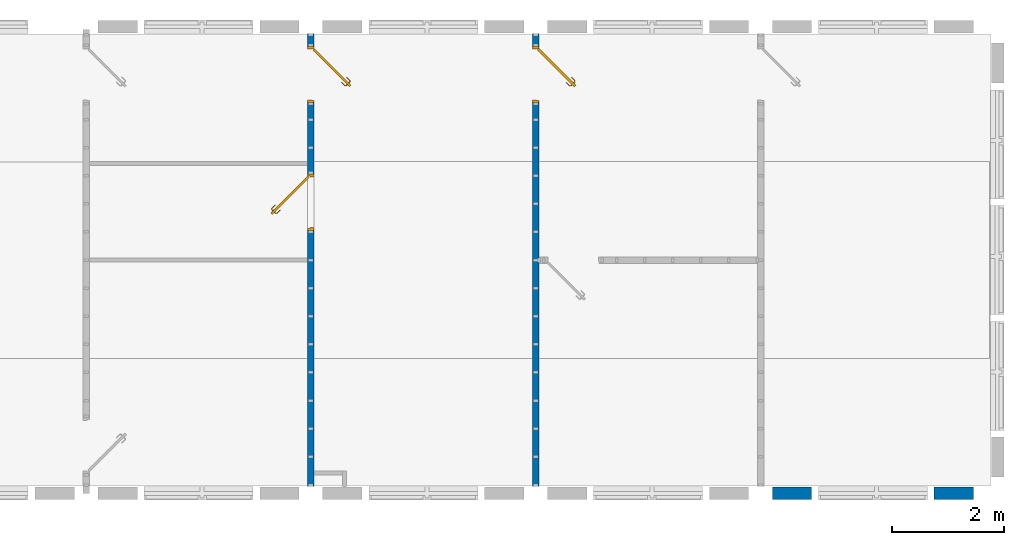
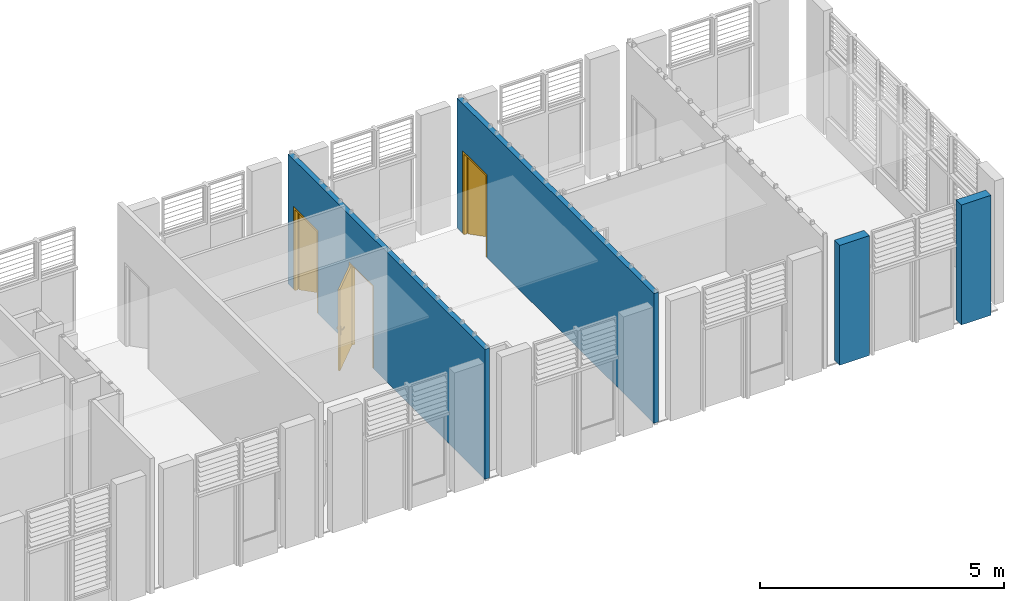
# One storey, part 12 of 20: 4 walls, 3 doors, 3 openings.
"""IFC2X3 building model written with IfcOpenShell, lengths in metres."""

import ifcopenshell
import ifcopenshell.guid

model = None  # the IFC model being written
_history = None  # IfcOwnerHistory: only IFC2X3 demands one
_inside = {}  # id of a spatial element -> (the spatial element, [elements in it])
_under = {}  # id of a project, library or spatial element -> (it, [spatial elements below it])
_declared = {}  # id of a project -> (the project, [libraries it declares])
_typed = {}  # id of a type object -> (the type object, [elements of that type])
_made_of = {}  # id of a material, layer set ... -> (it, [elements and type objects made of it])


def new_model(schema):
    """Start an empty IFC model of exactly this schema.

    Asked for "IFC4X3", IfcOpenShell would pick the latest addendum, in which some entities
    have other attributes; the version numbers below select the first issue.
    IFC2X3 requires an IfcOwnerHistory on every rooted entity: one is made here for all.
    """
    global model, _history
    if schema == "IFC4X3":
        model = ifcopenshell.file(schema_version=(4, 3, 0, 0))
    else:
        model = ifcopenshell.file(schema=schema)
    _inside.clear()
    _under.clear()
    _declared.clear()
    _typed.clear()
    _made_of.clear()
    _history = None
    if model.schema == "IFC2X3":
        org = make("IfcOrganization", Name="unknown")
        user = make(
            "IfcPersonAndOrganization",
            ThePerson=make("IfcPerson", FamilyName="unknown"),
            TheOrganization=org,
        )
        app = make(
            "IfcApplication",
            ApplicationDeveloper=org,
            Version="unknown",
            ApplicationFullName="unknown",
            ApplicationIdentifier="unknown",
        )
        _history = make(
            "IfcOwnerHistory",
            OwningUser=user,
            OwningApplication=app,
            ChangeAction="ADDED",
            CreationDate=0,
        )
    return model


def make(cls, **values):
    """One entity of the class cls with the attributes given. An attribute that is None is left unset."""
    return model.create_entity(
        cls, **{name: value for name, value in values.items() if value is not None}
    )


def entity(cls, *values):
    """Any entity or typed value of the class cls, its attributes in the order of the schema. None: left unset."""
    e = model.create_entity(cls)
    for i, value in enumerate(values):
        if value is not None:
            e[i] = value
    return e


def rooted(cls, **values):
    """An entity with a GlobalId (a new one), such as an element, a storey or a relation."""
    return make(cls, GlobalId=ifcopenshell.guid.new(), OwnerHistory=_history, **values)


def si_unit(unit_type, name, prefix=None):
    """IfcSIUnit, for example si_unit("LENGTHUNIT", "METRE", prefix="MILLI")."""
    return make("IfcSIUnit", UnitType=unit_type, Prefix=prefix, Name=name)


def converted_unit(unit_type, name, factor, base, dimensions=None, offset=None):
    """IfcConversionBasedUnit, such as the inch: factor (a typed value) times the base unit."""
    return make(
        "IfcConversionBasedUnit"
        if offset is None
        else "IfcConversionBasedUnitWithOffset",
        ConversionOffset=offset,
        Dimensions=None
        if dimensions is None
        else entity("IfcDimensionalExponents", *dimensions),
        UnitType=unit_type,
        Name=name,
        ConversionFactor=make(
            "IfcMeasureWithUnit", ValueComponent=factor, UnitComponent=base
        ),
    )


def derived_unit(unit_type, elements):
    """IfcDerivedUnit: a product of units, each with its exponent."""
    return make(
        "IfcDerivedUnit",
        Elements=[
            make("IfcDerivedUnitElement", Unit=unit, Exponent=power)
            for unit, power in elements
        ],
        UnitType=unit_type,
    )


def assignment(units):
    """IfcUnitAssignment: the units of a project."""
    return None if units is None else make("IfcUnitAssignment", Units=units)


def point(xyz):
    """IfcCartesianPoint."""
    return None if xyz is None else make("IfcCartesianPoint", Coordinates=xyz)


def direction(xyz):
    """IfcDirection."""
    return None if xyz is None else make("IfcDirection", DirectionRatios=xyz)


def frame(location, z_axis=None, x_axis=None):
    """IfcAxis2Placement3D, a coordinate frame: its origin and axes. An axis left out is left unset."""
    return make(
        "IfcAxis2Placement3D",
        Location=point(location),
        Axis=direction(z_axis),
        RefDirection=direction(x_axis),
    )


def frame_2d(location, x_axis=None):
    """IfcAxis2Placement2D, a coordinate frame in the plane: its origin and x axis."""
    return make(
        "IfcAxis2Placement2D", Location=point(location), RefDirection=direction(x_axis)
    )


def origin():
    """The frame at (0, 0, 0) with its axes left unset."""
    return frame((0.0, 0.0, 0.0))


def place(relative_to, where):
    """IfcLocalPlacement: puts the frame where relative to a parent placement (None: the world)."""
    return make(
        "IfcLocalPlacement", PlacementRelTo=relative_to, RelativePlacement=where
    )


def context(
    kind, dimensions, precision=None, world=None, true_north=None, identifier=None
):
    """IfcGeometricRepresentationContext, for example the 3D "Model" context."""
    return make(
        "IfcGeometricRepresentationContext",
        ContextIdentifier=identifier,
        ContextType=kind,
        CoordinateSpaceDimension=dimensions,
        Precision=precision,
        WorldCoordinateSystem=world,
        TrueNorth=true_north,
    )


def subcontext(parent, identifier, kind, view, scale=None):
    """IfcGeometricRepresentationSubContext, for example "Body" below "Model"."""
    return make(
        "IfcGeometricRepresentationSubContext",
        ContextIdentifier=identifier,
        ContextType=kind,
        ParentContext=parent,
        TargetScale=scale,
        TargetView=view,
    )


def project(units=None, contexts=None):
    """IfcProject with its units and contexts."""
    return rooted(
        "IfcProject",
        Name="project",
        RepresentationContexts=contexts,
        UnitsInContext=assignment(units),
    )


def spatial(cls, under=None, at=None, **own):
    """A site, building, storey or space (cls), placed at a placement, below another one or the project."""
    s = rooted(cls, ObjectPlacement=at, **own)
    if under is not None:
        _under.setdefault(under.id(), (under, []))[1].append(s)
    return s


def profile(cls, at=None, kind="AREA", **sizes):
    """A parametric profile (cls). Its sizes go by their IFC names, for example OverallWidth=200.0."""
    return make(cls, ProfileType=kind, Position=at, **sizes)


def rectangle(**sizes):
    """IfcRectangleProfileDef."""
    return profile("IfcRectangleProfileDef", **sizes)


def extrude(swept, where, along, depth):
    """IfcExtrudedAreaSolid: the profile swept, set in the frame where, extruded along a direction by depth."""
    return make(
        "IfcExtrudedAreaSolid",
        SweptArea=swept,
        Position=where,
        ExtrudedDirection=direction(along),
        Depth=depth,
    )


def faces_of(points, faces, orient=None, outer=None):
    """IfcFace entities. A face is a list of loops; a loop is a list of indices into points, from 0.

    orient and outer hold one flag for each loop. By default every Orientation is true, the
    first loop of a face is its IfcFaceOuterBound and the others are IfcFaceBound.
    """
    made = []
    for i, loops in enumerate(faces):
        bounds = []
        for j, loop in enumerate(loops):
            is_outer = j == 0 if outer is None else outer[i][j]
            bounds.append(
                make(
                    "IfcFaceOuterBound" if is_outer else "IfcFaceBound",
                    Bound=make("IfcPolyLoop", Polygon=[points[k] for k in loop]),
                    Orientation=True if orient is None else orient[i][j],
                )
            )
        made.append(make("IfcFace", Bounds=bounds))
    return made


def faceted_brep(points, faces, orient=None, outer=None, voids=None):
    """IfcFacetedBrep: a solid bounded by flat faces; with voids (closed shells), ...WithVoids."""
    shared = [point(p) for p in points]
    hull = make("IfcClosedShell", CfsFaces=faces_of(shared, faces, orient, outer))
    if voids is None:
        return make("IfcFacetedBrep", Outer=hull)
    return make(
        "IfcFacetedBrepWithVoids",
        Outer=hull,
        Voids=[
            make(cls, CfsFaces=faces_of(shared, fs, o, b)) for cls, fs, o, b in voids
        ],
    )


def shape(context_of_items, identifier, shape_type, items):
    """IfcShapeRepresentation: the items that make up one representation, for example the "Body"."""
    return make(
        "IfcShapeRepresentation",
        ContextOfItems=context_of_items,
        RepresentationIdentifier=identifier,
        RepresentationType=shape_type,
        Items=items,
    )


def source(mapping_origin, context_of_items, identifier, shape_type, items):
    """IfcRepresentationMap: a shape defined once, which mapped items show again and again."""
    return make(
        "IfcRepresentationMap",
        MappingOrigin=mapping_origin,
        MappedRepresentation=shape(context_of_items, identifier, shape_type, items),
    )


def transform(
    local_origin,
    x_axis=None,
    y_axis=None,
    z_axis=None,
    scale=None,
    scale2=None,
    scale3=None,
    uniform=True,
):
    """IfcCartesianTransformationOperator3D, or its non-uniform kind. x_axis, y_axis, z_axis: its Axis1, 2, 3."""
    if uniform:
        return make(
            "IfcCartesianTransformationOperator3D",
            Axis1=direction(x_axis),
            Axis2=direction(y_axis),
            LocalOrigin=point(local_origin),
            Scale=scale,
            Axis3=direction(z_axis),
        )
    return make(
        "IfcCartesianTransformationOperator3DnonUniform",
        Axis1=direction(x_axis),
        Axis2=direction(y_axis),
        LocalOrigin=point(local_origin),
        Scale=scale,
        Axis3=direction(z_axis),
        Scale2=scale2,
        Scale3=scale3,
    )


def mapped(mapping_source, mapping_target):
    """IfcMappedItem: shows the shape of a source again, moved by a transform."""
    return make(
        "IfcMappedItem", MappingSource=mapping_source, MappingTarget=mapping_target
    )


def material(Name=None, Category=None):
    """IfcMaterial."""
    return make("IfcMaterial", Name=Name, Category=Category)


def layer(
    of_material, thickness, ventilated=None, Name=None, Category=None, Priority=None
):
    """IfcMaterialLayer: one layer of a wall or slab, of a material (None: an air gap)."""
    return make(
        "IfcMaterialLayer",
        Material=of_material,
        LayerThickness=thickness,
        IsVentilated=ventilated,
        Name=Name,
        Category=Category,
        Priority=Priority,
    )


def layer_set(layers, Name=None):
    """IfcMaterialLayerSet."""
    return make("IfcMaterialLayerSet", MaterialLayers=layers, LayerSetName=Name)


def layer_usage(for_layer_set, set_direction, sense, offset, extent=None):
    """IfcMaterialLayerSetUsage: how a layer set lies in its element."""
    return make(
        "IfcMaterialLayerSetUsage",
        ForLayerSet=for_layer_set,
        LayerSetDirection=set_direction,
        DirectionSense=sense,
        OffsetFromReferenceLine=offset,
        ReferenceExtent=extent,
    )


def made_of(thing, what):
    """Note that an element or type object is made of a material, layer set ...; save() writes the relation."""
    if what is not None:
        _made_of.setdefault(what.id(), (what, []))[1].append(thing)
    return thing


def type_object(cls, material=None, **own):
    """A type object (cls), such as IfcWallType, which elements share."""
    return made_of(rooted(cls, **own), material)


def type_shapes(of_type, sources):
    """Give a type object the sources (RepresentationMaps) that its elements show as mapped items."""
    of_type.RepresentationMaps = sources


def element(
    cls,
    number,
    at=None,
    inside=None,
    cuts=None,
    type_object=None,
    material=None,
    context=None,
    identifier="Body",
    shape_type=None,
    held_by="IfcProductDefinitionShape",
    body=None,
    shapes=None,
    **own,
):
    """One element of the class cls, such as IfcWall. Its Tag is "e" and its number.

    at: its placement. inside: the storey or other place that contains it. cuts: it is an
    opening in that element (IfcRelVoidsElement). A single representation is given by context,
    identifier, shape_type and body (its items); several are given by shapes. held_by: the class
    of the entity that holds the representations. save() writes the other relations.
    """
    e = rooted(cls, Tag="e%d" % number, ObjectPlacement=at, **own)
    if body is not None:
        shapes = [shape(context, identifier, shape_type, body)]
    if shapes is not None:
        e.Representation = make(held_by, Representations=shapes)
    if inside is not None:
        _inside.setdefault(inside.id(), (inside, []))[1].append(e)
    if cuts is not None:
        rooted(
            "IfcRelVoidsElement", RelatingBuildingElement=cuts, RelatedOpeningElement=e
        )
    if type_object is not None:
        _typed.setdefault(type_object.id(), (type_object, []))[1].append(e)
    return made_of(e, material)


def fill(opening, filler):
    """IfcRelFillsElement: the door or window that sits in an opening."""
    return rooted(
        "IfcRelFillsElement",
        RelatingOpeningElement=opening,
        RelatedBuildingElement=filler,
    )


def aggregate(whole, parts):
    """IfcRelAggregates: a whole, such as a stair, and the parts it consists of."""
    return rooted("IfcRelAggregates", RelatingObject=whole, RelatedObjects=parts)


def save(model, path):
    """Write the relations noted so far, then the file.

    IfcRelAggregates (storeys below a building ...), IfcRelContainedInSpatialStructure (elements
    in a storey), IfcRelDefinesByType, IfcRelAssociatesMaterial and IfcRelDeclares: one each for
    every whole, place, type object, material and project.
    """
    for whole, parts in _under.values():
        aggregate(whole, parts)
    for where, things in _inside.values():
        rooted(
            "IfcRelContainedInSpatialStructure",
            RelatedElements=things,
            RelatingStructure=where,
        )
    for kind, things in _typed.values():
        rooted("IfcRelDefinesByType", RelatedObjects=things, RelatingType=kind)
    for what, things in _made_of.values():
        rooted("IfcRelAssociatesMaterial", RelatedObjects=things, RelatingMaterial=what)
    for by, libraries in _declared.values():
        rooted("IfcRelDeclares", RelatingContext=by, RelatedDefinitions=libraries)
    model.write(path)


model = new_model("IFC2X3")

# Units and contexts
model_context = context("Model", 3, precision=1e-05, world=origin(), true_north=direction((6.12303176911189e-17, 1.0)))
body_context = subcontext(model_context, "Body", "Model", "MODEL_VIEW")
ifc_project = project(units=[si_unit("LENGTHUNIT", "METRE"), si_unit("AREAUNIT", "SQUARE_METRE"), si_unit("VOLUMEUNIT", "CUBIC_METRE"), converted_unit("PLANEANGLEUNIT", "DEGREE", entity("IfcRatioMeasure", 0.0174532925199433), si_unit("PLANEANGLEUNIT", "RADIAN"), dimensions=[0, 0, 0, 0, 0, 0, 0]), si_unit("MASSUNIT", "GRAM", prefix="KILO"), derived_unit("MASSDENSITYUNIT", [(si_unit("MASSUNIT", "GRAM", prefix="KILO"), 1), (si_unit("LENGTHUNIT", "METRE"), -3)]), si_unit("TIMEUNIT", "SECOND"), si_unit("FREQUENCYUNIT", "HERTZ"), si_unit("THERMODYNAMICTEMPERATUREUNIT", "DEGREE_CELSIUS"), derived_unit("THERMALTRANSMITTANCEUNIT", [(si_unit("MASSUNIT", "GRAM", prefix="KILO"), 1), (si_unit("THERMODYNAMICTEMPERATUREUNIT", "KELVIN"), -1), (si_unit("TIMEUNIT", "SECOND"), -3)]), derived_unit("VOLUMETRICFLOWRATEUNIT", [(si_unit("LENGTHUNIT", "METRE"), 3), (si_unit("TIMEUNIT", "SECOND"), -1)]), si_unit("ELECTRICCURRENTUNIT", "AMPERE"), si_unit("ELECTRICVOLTAGEUNIT", "VOLT"), si_unit("POWERUNIT", "WATT"), si_unit("FORCEUNIT", "NEWTON", prefix="KILO"), si_unit("ILLUMINANCEUNIT", "LUX"), si_unit("LUMINOUSFLUXUNIT", "LUMEN"), si_unit("LUMINOUSINTENSITYUNIT", "CANDELA"), derived_unit("USERDEFINED", [(si_unit("MASSUNIT", "GRAM", prefix="KILO"), -1), (si_unit("LENGTHUNIT", "METRE"), -2), (si_unit("TIMEUNIT", "SECOND"), 3), (si_unit("LUMINOUSFLUXUNIT", "LUMEN"), 1)]), derived_unit("LINEARVELOCITYUNIT", [(si_unit("LENGTHUNIT", "METRE"), 1), (si_unit("TIMEUNIT", "SECOND"), -1)]), si_unit("PRESSUREUNIT", "PASCAL"), derived_unit("USERDEFINED", [(si_unit("LENGTHUNIT", "METRE"), -2), (si_unit("MASSUNIT", "GRAM", prefix="KILO"), 1), (si_unit("TIMEUNIT", "SECOND"), -2)])], contexts=[model_context])

# Site, building, storey
site_placement = place(None, origin())
site = spatial("IfcSite", under=ifc_project, at=site_placement, Name="Surface", CompositionType="ELEMENT")
building_placement = place(site_placement, origin())
building = spatial("IfcBuilding", under=site, at=building_placement, Name="ExPREF", CompositionType="ELEMENT")
storey_placement = place(building_placement, frame((0.0, 0.0, 4.27)))
storey = spatial("IfcBuildingStorey", under=building, at=storey_placement, Name="R+1", CompositionType="ELEMENT", Elevation=4.27)

# Wall, openings, doors
ifc_material_1 = material(Name="AA-mur cloison finition")
ifc_layer_1 = layer(ifc_material_1, 0.018)
ifc_material_2 = material(Name="AA-isolant plancher")
ifc_layer_2 = layer(ifc_material_2, 0.08)
ifc_layer_3 = layer(ifc_material_1, 0.018)
ifc_layer_set_1 = layer_set([ifc_layer_1, ifc_layer_2, ifc_layer_3], Name="Mur de base:A-cloison CP 11.6 cm")
ifc_layer_usage_1 = layer_usage(ifc_layer_set_1, "AXIS2", "NEGATIVE", 0.058)
wall_type_1 = type_object("IfcWallType", Name="Mur de base:A-cloison CP 11.6 cm", PredefinedType="STANDARD", material=ifc_layer_set_1)
wall_1_placement = place(storey_placement, frame((57.4897436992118, -185.17648794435, 0.0), z_axis=(0.0, 0.0, 1.0), x_axis=(0.0, -1.0, 0.0)))
wall_1 = element("IfcWallStandardCase", 1, at=wall_1_placement, inside=storey, type_object=wall_type_1, material=ifc_layer_usage_1, Name="Mur de base:A-cloison CP 11.6 cm", ObjectType="Mur de base:A-cloison CP 11.6 cm", context=body_context, shape_type="SweptSolid", body=[
    extrude(rectangle(XDim=8.06316335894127, YDim=0.116000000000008, at=frame_2d((4.03158167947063, 1.98105420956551e-15), x_axis=(-1.0, 0.0))), origin(), (0.0, 0.0, 1.0), 3.24999999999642),
])
opening_1_placement = place(wall_1_placement, frame((0.230000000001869, -0.0580000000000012, 0.0)))
opening_1 = element("IfcOpeningElement", 2, at=opening_1_placement, cuts=wall_1, Name="Porte intérieur bois:PP (0.93m x 2.04m):1", ObjectType="Opening", context=body_context, shape_type="SweptSolid", body=[
    extrude(rectangle(XDim=2.075, YDim=1.0, at=frame_2d((1.0375, 0.5), x_axis=(1.0, 0.0))), frame((0.0, 0.0, 0.0), z_axis=(0.0, 1.0, 0.0), x_axis=(0.0, 0.0, 1.0)), (0.0, 0.0, 1.0), 0.116),
])
opening_2_placement = place(wall_1_placement, frame((3.50158183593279, 0.0579999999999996, 0.0)))
opening_2 = element("IfcOpeningElement", 3, at=opening_2_placement, cuts=wall_1, Name="Porte intérieur bois:PP (0.93m x 2.04m):1", ObjectType="Opening", context=body_context, shape_type="SweptSolid", body=[
    extrude(rectangle(XDim=2.075, YDim=1.0, at=frame_2d((1.0375, 0.5), x_axis=(1.0, 0.0))), frame((0.0, 0.0, 0.0), z_axis=(0.0, -1.0, 0.0), x_axis=(0.0, 0.0, 1.0)), (0.0, 0.0, 1.0), 0.116),
])
ifc_material_3 = material(Name="AA-Blanc satiné")
door_style_1 = type_object("IfcDoorStyle", Name="PP (0.93m x 2.04m)", ConstructionType="NOTDEFINED", OperationType="SINGLE_SWING_LEFT", ParameterTakesPrecedence=False, Sizeable=False, material=ifc_material_3)
shared_shape_1 = source(origin(), body_context, "Body", "Brep", [
    faceted_brep([(0.316565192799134, -0.584795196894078, 1.00778044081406), (0.313754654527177, -0.587605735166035, 1.007), (0.31375465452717, -0.587605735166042, 0.992999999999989), (0.316565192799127, -0.584795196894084, 0.99221955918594), (0.319429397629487, -0.581930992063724, 0.992219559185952), (0.32223993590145, -0.579120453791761, 0.993000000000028), (0.322239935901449, -0.579120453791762, 1.007), (0.319429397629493, -0.581930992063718, 1.00778044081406), (0.306340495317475, -0.563221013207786, 0.993000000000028), (0.306340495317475, -0.563221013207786, 1.007), (0.302365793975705, -0.56486738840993, 1.00778044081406), (0.302365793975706, -0.545331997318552, 1.00778044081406), (0.298315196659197, -0.543654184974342, 1.00778044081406), (0.298315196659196, -0.56654520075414, 1.00778044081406), (0.294340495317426, -0.568191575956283, 1.007), (0.294340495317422, -0.568191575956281, 0.992999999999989), (0.298315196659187, -0.566545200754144, 0.99221955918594), (0.298315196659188, -0.543654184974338, 0.99221955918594), (0.302365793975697, -0.545331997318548, 0.992219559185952), (0.302365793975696, -0.564867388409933, 0.992219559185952), (0.306340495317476, -0.546978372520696, 0.993000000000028), (0.306340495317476, -0.546978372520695, 1.007), (0.294340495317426, -0.542007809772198, 1.007), (0.294340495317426, -0.542007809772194, 0.992999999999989), (0.36471958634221, -0.488599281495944, 0.993000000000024), (0.361909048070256, -0.485788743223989, 0.992219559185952), (0.359044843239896, -0.48292453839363, 0.99221955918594), (0.356234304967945, -0.480114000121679, 0.992999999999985), (0.356234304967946, -0.480114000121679, 1.007), (0.359044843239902, -0.482924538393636, 1.00778044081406), (0.361909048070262, -0.485788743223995, 1.00778044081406), (0.364719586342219, -0.488599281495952, 1.007), (0.335530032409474, -0.517788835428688, 0.993000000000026), (0.335530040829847, -0.517788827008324, 1.007), (0.330705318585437, -0.51412826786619, 1.0078786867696), (0.322575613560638, -0.513772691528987, 1.007), (0.322575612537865, -0.513772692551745, 0.992999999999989), (0.330705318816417, -0.514128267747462, 0.992121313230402)], [[[0, 1, 2, 3, 4, 5, 6, 7]], [[6, 5, 8, 9]], [[9, 10, 7, 6]], [[10, 11, 12, 13, 0, 7]], [[13, 14, 1, 0]], [[2, 1, 14, 15]], [[15, 16, 3, 2]], [[16, 17, 18, 19, 4, 3]], [[19, 8, 5, 4]], [[9, 8, 20, 21]], [[21, 11, 10, 9]], [[12, 22, 14, 13]], [[15, 14, 22, 23]], [[23, 17, 16, 15]], [[18, 20, 8, 19]], [[24, 25, 26, 27, 28, 29, 30, 31]], [[21, 20, 32, 24, 31, 33]], [[33, 30, 34]], [[35, 34, 29]], [[21, 33, 11]], [[33, 31, 30]], [[28, 35, 29]], [[22, 12, 35]], [[35, 12, 34]], [[12, 11, 34]], [[11, 33, 34]], [[29, 34, 30]], [[22, 35, 28, 27, 36, 23]], [[36, 26, 37]], [[27, 26, 36]], [[17, 23, 36]], [[37, 32, 18]], [[20, 18, 32]], [[32, 25, 24]], [[26, 25, 37]], [[25, 32, 37]], [[17, 36, 37]], [[17, 37, 18]]]),
    faceted_brep([(0.351920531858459, -0.620150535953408, 1.00778044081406), (0.354784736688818, -0.617286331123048, 1.00778044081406), (0.357595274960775, -0.614475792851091, 1.00699999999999), (0.357595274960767, -0.614475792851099, 0.993000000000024), (0.354784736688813, -0.617286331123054, 0.992219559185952), (0.351920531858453, -0.620150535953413, 0.99221955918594), (0.349109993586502, -0.622961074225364, 0.992999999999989), (0.349109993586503, -0.622961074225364, 1.007), (0.368662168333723, -0.642513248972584, 1.007), (0.370308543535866, -0.638538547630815, 1.00778044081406), (0.3930050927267, -0.638538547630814, 1.00778044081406), (0.391327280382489, -0.634487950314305, 1.00778044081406), (0.371986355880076, -0.634487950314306, 1.00778044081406), (0.373632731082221, -0.630513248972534, 1.007), (0.373632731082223, -0.630513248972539, 0.993000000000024), (0.371986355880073, -0.634487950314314, 0.992219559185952), (0.391327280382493, -0.634487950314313, 0.992219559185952), (0.393005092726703, -0.638538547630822, 0.99221955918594), (0.370308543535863, -0.638538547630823, 0.99221955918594), (0.368662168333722, -0.642513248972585, 0.992999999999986), (0.394651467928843, -0.642513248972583, 1.007), (0.389680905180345, -0.630513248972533, 1.007), (0.38968090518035, -0.630513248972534, 0.993000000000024), (0.394651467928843, -0.642513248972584, 0.992999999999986), (0.456623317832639, -0.580541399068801, 0.992999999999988), (0.453812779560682, -0.577730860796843, 0.99221955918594), (0.450948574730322, -0.574866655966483, 0.992219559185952), (0.448138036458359, -0.57205611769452, 0.993000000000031), (0.44813803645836, -0.572056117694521, 1.007), (0.450948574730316, -0.574866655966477, 1.00778044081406), (0.453812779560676, -0.577730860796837, 1.00778044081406), (0.456623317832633, -0.580541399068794, 1.00699999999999), (0.422886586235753, -0.614278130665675, 1.007), (0.422570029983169, -0.606109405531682, 1.0078786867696), (0.418909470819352, -0.601284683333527, 1.007), (0.418909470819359, -0.601284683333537, 0.993000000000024), (0.422570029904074, -0.606109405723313, 0.992121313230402), (0.422886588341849, -0.614278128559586, 0.992999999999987)], [[[0, 1, 2, 3, 4, 5, 6, 7]], [[8, 9, 0, 7]], [[9, 10, 11, 12, 1, 0]], [[12, 13, 2, 1]], [[3, 2, 13, 14]], [[14, 15, 4, 3]], [[15, 16, 17, 18, 5, 4]], [[18, 19, 6, 5]], [[7, 6, 19, 8]], [[20, 10, 9, 8]], [[11, 21, 13, 12]], [[14, 13, 21, 22]], [[22, 16, 15, 14]], [[17, 23, 19, 18]], [[8, 19, 23, 20]], [[24, 25, 26, 27, 28, 29, 30, 31]], [[32, 30, 33]], [[31, 30, 32]], [[10, 20, 32]], [[33, 34, 11]], [[21, 11, 34]], [[34, 29, 28]], [[30, 29, 33]], [[29, 34, 33]], [[10, 32, 33]], [[10, 33, 11]], [[22, 21, 34, 28, 27, 35]], [[35, 26, 36]], [[37, 36, 25]], [[22, 35, 16]], [[35, 27, 26]], [[24, 37, 25]], [[23, 17, 37]], [[37, 17, 36]], [[17, 16, 36]], [[16, 35, 36]], [[25, 36, 26]], [[20, 23, 37, 24, 31, 32]]]),
    faceted_brep([(0.328853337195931, -0.579578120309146, 0.866003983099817), (0.335674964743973, -0.572756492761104, 0.870000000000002), (0.335674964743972, -0.572756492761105, 1.08), (0.32885333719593, -0.579578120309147, 1.08399601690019), (0.321532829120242, -0.586898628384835, 1.08535898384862), (0.314212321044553, -0.594219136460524, 1.08399601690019), (0.307390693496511, -0.601040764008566, 1.08), (0.307390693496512, -0.601040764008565, 0.870000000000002), (0.314212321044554, -0.594219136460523, 0.866003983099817), (0.321532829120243, -0.586898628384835, 0.86464101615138), (0.325317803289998, -0.576042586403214, 1.08399601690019), (0.33213943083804, -0.569220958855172, 1.08), (0.332139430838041, -0.569220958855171, 0.870000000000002), (0.325317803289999, -0.576042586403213, 0.866003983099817), (0.31799729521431, -0.583363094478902, 0.86464101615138), (0.310676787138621, -0.59068360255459, 0.866003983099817), (0.303855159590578, -0.597505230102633, 0.870000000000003), (0.303855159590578, -0.597505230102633, 1.08), (0.31067678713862, -0.590683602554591, 1.08399601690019), (0.317997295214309, -0.583363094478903, 1.08535898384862)], [[[0, 1, 2, 3, 4, 5, 6, 7, 8, 9]], [[10, 11, 12, 13, 14, 15, 16, 17, 18, 19]], [[11, 10, 3, 2]], [[3, 10, 19, 4]], [[19, 18, 5, 4]], [[18, 17, 6, 5]], [[7, 6, 17, 16]], [[16, 15, 8, 7]], [[8, 15, 14, 9]], [[14, 13, 0, 9]], [[13, 12, 1, 0]], [[2, 1, 12, 11]]]),
    faceted_brep([(0.360673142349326, -0.61139792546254, 0.866003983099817), (0.367494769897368, -0.604576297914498, 0.870000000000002), (0.367494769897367, -0.604576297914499, 1.08), (0.360673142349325, -0.611397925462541, 1.08399601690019), (0.353352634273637, -0.61871843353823, 1.08535898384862), (0.346032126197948, -0.626038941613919, 1.08399601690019), (0.339210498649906, -0.632860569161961, 1.08), (0.339210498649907, -0.63286056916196, 0.870000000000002), (0.346032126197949, -0.626038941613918, 0.866003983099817), (0.353352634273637, -0.618718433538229, 0.86464101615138), (0.357137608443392, -0.607862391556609, 1.08399601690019), (0.363959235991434, -0.601040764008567, 1.08), (0.363959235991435, -0.601040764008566, 0.870000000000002), (0.357137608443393, -0.607862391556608, 0.866003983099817), (0.349817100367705, -0.615182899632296, 0.86464101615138), (0.342496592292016, -0.622503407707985, 0.866003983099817), (0.335674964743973, -0.629325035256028, 0.870000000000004), (0.335674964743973, -0.629325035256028, 1.08), (0.342496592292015, -0.622503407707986, 1.08399601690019), (0.349817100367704, -0.615182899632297, 1.08535898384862)], [[[0, 1, 2, 3, 4, 5, 6, 7, 8, 9]], [[10, 11, 12, 13, 14, 15, 16, 17, 18, 19]], [[16, 15, 8, 7]], [[8, 15, 14, 9]], [[14, 13, 0, 9]], [[13, 12, 1, 0]], [[2, 1, 12, 11]], [[11, 10, 3, 2]], [[3, 10, 19, 4]], [[19, 18, 5, 4]], [[18, 17, 6, 5]], [[7, 6, 17, 16]]]),
    faceted_brep([(0.279106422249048, -0.629325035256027, 2.04), (0.936715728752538, 0.0282842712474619, 2.04), (0.936715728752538, 0.0282842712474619, 0.0), (0.279106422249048, -0.629325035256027, 0.0), (0.30739069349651, -0.657609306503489, 2.04), (0.30739069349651, -0.657609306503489, 0.0), (0.965, 0.0, 0.0), (0.965, 0.0, 2.04)], [[[0, 1, 2, 3]], [[4, 5, 6, 7]], [[1, 0, 4, 7]], [[2, 1, 7, 6]], [[3, 2, 6, 5]], [[0, 3, 5, 4]]]),
    faceted_brep([(0.0, 0.0, 0.0), (0.0, 0.116000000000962, 0.0), (0.0499999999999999, 0.116000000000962, 0.0), (0.0499999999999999, 0.0400000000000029, 0.0), (0.0349999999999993, 0.0400000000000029, 0.0), (0.0349999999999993, 0.0, 0.0), (0.0, 0.0, 2.07500000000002), (0.0, 0.116000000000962, 2.07500000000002), (1.0, 0.116000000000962, 2.07500000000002), (1.0, 0.116000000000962, 0.0), (0.95, 0.116000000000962, 0.0), (0.95, 0.116000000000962, 2.025), (0.0500000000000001, 0.116000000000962, 2.025), (0.05, 0.0400000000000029, 2.025), (0.95, 0.0400000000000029, 2.025), (0.95, 0.0400000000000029, 0.0), (0.965, 0.0400000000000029, 0.0), (0.965, 0.0400000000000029, 2.04), (0.0349999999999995, 0.0400000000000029, 2.04), (0.0349999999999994, 0.0, 2.04), (0.965, 0.0, 2.04), (0.965, 0.0, 0.0), (1.0, 0.0, 0.0), (1.0, 0.0, 2.07500000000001)], [[[0, 1, 2, 3, 4, 5]], [[1, 0, 6, 7]], [[2, 1, 7, 8, 9, 10, 11, 12]], [[3, 2, 12, 13]], [[4, 3, 13, 14, 15, 16, 17, 18]], [[5, 4, 18, 19]], [[0, 5, 19, 20, 21, 22, 23, 6]], [[8, 23, 22, 9]], [[22, 21, 16, 15, 10, 9]], [[14, 11, 10, 15]], [[20, 17, 16, 21]], [[7, 6, 23, 8]], [[13, 12, 11, 14]], [[19, 18, 17, 20]]]),
])
type_shapes(door_style_1, [shared_shape_1])
door_1_placement = place(opening_1_placement, frame((1.0, 0.116000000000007, 0.0), z_axis=(0.0, 0.0, 1.0), x_axis=(-1.0, 0.0, 0.0)))
door_1 = element("IfcDoor", 4, at=door_1_placement, inside=storey, type_object=door_style_1, material=ifc_material_3, Name="Porte intérieur bois:PP (0.93m x 2.04m)", ObjectType="PP (0.93m x 2.04m)", OverallHeight=2.075, OverallWidth=1.00000000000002, context=body_context, shape_type="MappedRepresentation", body=[
    mapped(shared_shape_1, transform((0.0, 0.0, 0.0), scale=1.0)),
])
fill(opening_1, door_1)
door_style_2 = type_object("IfcDoorStyle", Name="PP (0.93m x 2.04m)", ConstructionType="NOTDEFINED", OperationType="SINGLE_SWING_RIGHT", ParameterTakesPrecedence=False, Sizeable=False, material=ifc_material_3)
shared_shape_2 = source(origin(), body_context, "Body", "Brep", [
    faceted_brep([(0.750570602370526, -0.581930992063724, 0.992219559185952), (0.753434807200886, -0.584795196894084, 0.99221955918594), (0.756245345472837, -0.587605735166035, 0.992999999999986), (0.756245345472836, -0.587605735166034, 1.007), (0.75343480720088, -0.584795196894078, 1.00778044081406), (0.75057060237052, -0.581930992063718, 1.00778044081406), (0.747760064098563, -0.579120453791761, 1.007), (0.747760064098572, -0.57912045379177, 0.993000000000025), (0.763659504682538, -0.563221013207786, 1.007), (0.763659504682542, -0.563221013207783, 0.993000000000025), (0.767634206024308, -0.56486738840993, 1.00778044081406), (0.771684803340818, -0.56654520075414, 1.00778044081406), (0.771684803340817, -0.543654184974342, 1.00778044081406), (0.767634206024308, -0.545331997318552, 1.00778044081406), (0.775659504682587, -0.568191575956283, 1.007), (0.775659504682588, -0.568191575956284, 0.992999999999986), (0.771684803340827, -0.566545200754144, 0.99221955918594), (0.767634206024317, -0.564867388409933, 0.992219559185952), (0.767634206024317, -0.545331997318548, 0.992219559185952), (0.771684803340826, -0.543654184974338, 0.99221955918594), (0.763659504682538, -0.546978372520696, 1.007), (0.763659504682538, -0.546978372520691, 0.993000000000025), (0.775659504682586, -0.542007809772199, 1.007), (0.775659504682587, -0.542007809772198, 0.992999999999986), (0.708090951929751, -0.485788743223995, 1.00778044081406), (0.710955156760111, -0.482924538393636, 1.00778044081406), (0.713765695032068, -0.480114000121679, 1.007), (0.713765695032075, -0.480114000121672, 0.992999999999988), (0.710955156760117, -0.48292453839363, 0.99221955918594), (0.708090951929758, -0.485788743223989, 0.992219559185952), (0.705280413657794, -0.488599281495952, 0.993000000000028), (0.705280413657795, -0.488599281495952, 1.007), (0.734469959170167, -0.517788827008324, 1.007), (0.734469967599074, -0.517788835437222, 0.993000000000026), (0.739294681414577, -0.51412826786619, 1.0078786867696), (0.747424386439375, -0.513772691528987, 1.007), (0.747424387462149, -0.513772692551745, 0.992999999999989), (0.739294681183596, -0.514128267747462, 0.992121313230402)], [[[0, 1, 2, 3, 4, 5, 6, 7]], [[8, 9, 7, 6]], [[5, 10, 8, 6]], [[5, 4, 11, 12, 13, 10]], [[3, 14, 11, 4]], [[14, 3, 2, 15]], [[2, 1, 16, 15]], [[1, 0, 17, 18, 19, 16]], [[0, 7, 9, 17]], [[20, 21, 9, 8]], [[8, 10, 13, 20]], [[14, 22, 12, 11]], [[23, 22, 14, 15]], [[15, 16, 19, 23]], [[17, 9, 21, 18]], [[24, 25, 26, 27, 28, 29, 30, 31]], [[21, 20, 32, 31, 30, 33]], [[34, 24, 32]], [[25, 34, 35]], [[13, 32, 20]], [[24, 31, 32]], [[25, 35, 26]], [[35, 12, 22]], [[34, 12, 35]], [[34, 13, 12]], [[34, 32, 13]], [[24, 34, 25]], [[22, 23, 36, 27, 26, 35]], [[37, 28, 36]], [[36, 28, 27]], [[36, 23, 19]], [[18, 33, 37]], [[33, 18, 21]], [[30, 29, 33]], [[37, 29, 28]], [[37, 33, 29]], [[37, 36, 19]], [[18, 37, 19]]]),
    faceted_brep([(0.715215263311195, -0.617286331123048, 1.00778044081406), (0.718079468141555, -0.620150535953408, 1.00778044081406), (0.720890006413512, -0.622961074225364, 1.00699999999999), (0.720890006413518, -0.622961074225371, 0.992999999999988), (0.718079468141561, -0.620150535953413, 0.99221955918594), (0.715215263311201, -0.617286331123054, 0.992219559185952), (0.712404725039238, -0.614475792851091, 0.993000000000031), (0.712404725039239, -0.614475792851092, 1.007), (0.699691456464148, -0.638538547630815, 1.00778044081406), (0.701337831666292, -0.642513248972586, 1.007), (0.698013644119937, -0.634487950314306, 1.00778044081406), (0.678672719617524, -0.634487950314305, 1.00778044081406), (0.676994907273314, -0.638538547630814, 1.00778044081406), (0.696367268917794, -0.630513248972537, 1.007), (0.696367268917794, -0.630513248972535, 0.993000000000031), (0.698013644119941, -0.634487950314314, 0.992219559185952), (0.699691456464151, -0.638538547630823, 0.99221955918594), (0.676994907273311, -0.638538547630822, 0.99221955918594), (0.678672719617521, -0.634487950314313, 0.992219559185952), (0.701337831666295, -0.642513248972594, 0.992999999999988), (0.67534853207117, -0.642513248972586, 1.007), (0.680319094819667, -0.630513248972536, 1.007), (0.680319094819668, -0.630513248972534, 0.993000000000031), (0.675348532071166, -0.642513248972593, 0.992999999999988), (0.613376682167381, -0.580541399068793, 1.007), (0.616187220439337, -0.577730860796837, 1.00778044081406), (0.619051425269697, -0.574866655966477, 1.00778044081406), (0.621861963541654, -0.57205611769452, 1.00699999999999), (0.621861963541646, -0.572056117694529, 0.993000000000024), (0.619051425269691, -0.574866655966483, 0.992219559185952), (0.616187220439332, -0.577730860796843, 0.99221955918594), (0.613376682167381, -0.580541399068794, 0.992999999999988), (0.647429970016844, -0.606109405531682, 1.0078786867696), (0.647113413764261, -0.614278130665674, 1.007), (0.651090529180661, -0.601284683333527, 1.007), (0.651090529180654, -0.601284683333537, 0.993000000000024), (0.64742997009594, -0.606109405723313, 0.992121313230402), (0.64711341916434, -0.61427813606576, 0.992999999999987)], [[[0, 1, 2, 3, 4, 5, 6, 7]], [[2, 1, 8, 9]], [[1, 0, 10, 11, 12, 8]], [[0, 7, 13, 10]], [[14, 13, 7, 6]], [[5, 15, 14, 6]], [[5, 4, 16, 17, 18, 15]], [[3, 19, 16, 4]], [[9, 19, 3, 2]], [[9, 8, 12, 20]], [[10, 13, 21, 11]], [[22, 21, 13, 14]], [[14, 15, 18, 22]], [[16, 19, 23, 17]], [[20, 23, 19, 9]], [[24, 25, 26, 27, 28, 29, 30, 31]], [[32, 25, 33]], [[33, 25, 24]], [[33, 20, 12]], [[11, 34, 32]], [[34, 11, 21]], [[27, 26, 34]], [[32, 26, 25]], [[32, 34, 26]], [[32, 33, 12]], [[11, 32, 12]], [[21, 22, 35, 28, 27, 34]], [[36, 29, 35]], [[30, 36, 37]], [[18, 35, 22]], [[29, 28, 35]], [[30, 37, 31]], [[37, 17, 23]], [[36, 17, 37]], [[36, 18, 17]], [[36, 35, 18]], [[29, 36, 30]], [[23, 20, 33, 24, 31, 37]]]),
    faceted_brep([(0.762609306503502, -0.601040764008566, 0.870000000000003), (0.762609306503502, -0.601040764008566, 1.08), (0.75578767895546, -0.594219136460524, 1.08399601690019), (0.748467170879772, -0.586898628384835, 1.08535898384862), (0.741146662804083, -0.579578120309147, 1.08399601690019), (0.734325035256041, -0.572756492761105, 1.08), (0.73432503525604, -0.572756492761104, 0.870000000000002), (0.741146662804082, -0.579578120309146, 0.866003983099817), (0.748467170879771, -0.586898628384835, 0.86464101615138), (0.755787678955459, -0.594219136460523, 0.866003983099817), (0.752002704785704, -0.583363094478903, 1.08535898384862), (0.759323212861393, -0.590683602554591, 1.08399601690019), (0.766144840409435, -0.597505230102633, 1.08), (0.766144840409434, -0.597505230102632, 0.870000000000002), (0.759323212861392, -0.59068360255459, 0.866003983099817), (0.752002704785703, -0.583363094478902, 0.86464101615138), (0.744682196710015, -0.576042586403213, 0.866003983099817), (0.737860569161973, -0.569220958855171, 0.870000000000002), (0.737860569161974, -0.569220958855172, 1.08), (0.744682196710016, -0.576042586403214, 1.08399601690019)], [[[0, 1, 2, 3, 4, 5, 6, 7, 8, 9]], [[10, 11, 12, 13, 14, 15, 16, 17, 18, 19]], [[4, 19, 18, 5]], [[3, 10, 19, 4]], [[2, 11, 10, 3]], [[2, 1, 12, 11]], [[13, 12, 1, 0]], [[9, 14, 13, 0]], [[8, 15, 14, 9]], [[7, 16, 15, 8]], [[7, 6, 17, 16]], [[17, 6, 5, 18]]]),
    faceted_brep([(0.730789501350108, -0.632860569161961, 0.870000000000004), (0.730789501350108, -0.632860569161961, 1.08), (0.723967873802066, -0.626038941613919, 1.08399601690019), (0.716647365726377, -0.61871843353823, 1.08535898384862), (0.709326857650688, -0.611397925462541, 1.08399601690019), (0.702505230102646, -0.604576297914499, 1.08), (0.702505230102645, -0.604576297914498, 0.870000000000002), (0.709326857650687, -0.61139792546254, 0.866003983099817), (0.716647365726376, -0.618718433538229, 0.86464101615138), (0.723967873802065, -0.626038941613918, 0.866003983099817), (0.73432503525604, -0.629325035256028, 1.08), (0.73432503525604, -0.629325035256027, 0.870000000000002), (0.727503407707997, -0.622503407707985, 0.866003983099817), (0.720182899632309, -0.615182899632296, 0.86464101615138), (0.71286239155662, -0.607862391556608, 0.866003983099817), (0.706040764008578, -0.601040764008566, 0.870000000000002), (0.706040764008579, -0.601040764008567, 1.08), (0.712862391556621, -0.607862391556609, 1.08399601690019), (0.72018289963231, -0.615182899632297, 1.08535898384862), (0.727503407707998, -0.622503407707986, 1.08399601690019)], [[[0, 1, 2, 3, 4, 5, 6, 7, 8, 9]], [[10, 11, 12, 13, 14, 15, 16, 17, 18, 19]], [[9, 12, 11, 0]], [[8, 13, 12, 9]], [[7, 14, 13, 8]], [[7, 6, 15, 14]], [[15, 6, 5, 16]], [[4, 17, 16, 5]], [[3, 18, 17, 4]], [[2, 19, 18, 3]], [[2, 1, 10, 19]], [[11, 10, 1, 0]]]),
    faceted_brep([(0.790893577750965, -0.629325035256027, 2.04), (0.790893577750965, -0.629325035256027, 0.0), (0.133284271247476, 0.0282842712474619, 0.0), (0.133284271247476, 0.0282842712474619, 2.04), (0.762609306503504, -0.657609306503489, 2.04), (0.105000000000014, 0.0, 2.04), (0.105000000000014, 0.0, 0.0), (0.762609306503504, -0.657609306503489, 0.0)], [[[0, 1, 2, 3]], [[4, 5, 6, 7]], [[3, 5, 4, 0]], [[2, 6, 5, 3]], [[1, 7, 6, 2]], [[0, 4, 7, 1]]]),
    faceted_brep([(1.07000000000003, 0.0, 0.0), (1.03500000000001, 0.0, 0.0), (1.03500000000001, 0.0400000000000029, 0.0), (1.02000000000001, 0.0400000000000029, 0.0), (1.02000000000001, 0.116000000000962, 0.0), (1.07000000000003, 0.116000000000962, 0.0), (1.07000000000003, 0.116000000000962, 2.07500000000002), (1.07000000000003, 0.0, 2.07500000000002), (1.02000000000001, 0.116000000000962, 2.025), (0.120000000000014, 0.116000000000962, 2.025), (0.120000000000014, 0.116000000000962, 0.0), (0.0699999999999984, 0.116000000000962, 0.0), (0.0699999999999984, 0.116000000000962, 2.07500000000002), (1.02000000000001, 0.0400000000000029, 2.025), (1.03500000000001, 0.0400000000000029, 2.04), (0.105000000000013, 0.0400000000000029, 2.04), (0.105000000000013, 0.0400000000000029, 0.0), (0.120000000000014, 0.0400000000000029, 0.0), (0.120000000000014, 0.0400000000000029, 2.025), (1.03500000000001, 0.0, 2.04), (0.0699999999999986, 0.0, 2.07500000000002), (0.0699999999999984, 0.0, 0.0), (0.105000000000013, 0.0, 0.0), (0.105000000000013, 0.0, 2.04)], [[[0, 1, 2, 3, 4, 5]], [[5, 6, 7, 0]], [[4, 8, 9, 10, 11, 12, 6, 5]], [[3, 13, 8, 4]], [[2, 14, 15, 16, 17, 18, 13, 3]], [[1, 19, 14, 2]], [[0, 7, 20, 21, 22, 23, 19, 1]], [[12, 11, 21, 20]], [[21, 11, 10, 17, 16, 22]], [[18, 17, 10, 9]], [[23, 22, 16, 15]], [[6, 12, 20, 7]], [[13, 18, 9, 8]], [[19, 23, 15, 14]]]),
])
type_shapes(door_style_2, [shared_shape_2])
door_2_placement = place(opening_2_placement, frame((-1.07000000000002, -0.116000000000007, 0.0)))
door_2 = element("IfcDoor", 5, at=door_2_placement, inside=storey, type_object=door_style_2, material=ifc_material_3, Name="Porte intérieur bois:PP (0.93m x 2.04m)", ObjectType="PP (0.93m x 2.04m)", OverallHeight=2.075, OverallWidth=1.00000000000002, context=body_context, shape_type="MappedRepresentation", body=[
    mapped(shared_shape_2, transform((0.0, 0.0, 0.0), scale=1.0)),
])
fill(opening_2, door_2)

# Wall, opening, door
ifc_layer_usage_2 = layer_usage(ifc_layer_set_1, "AXIS2", "NEGATIVE", 0.058)
wall_2_placement = place(storey_placement, frame((61.4897436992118, -185.17648794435, 0.0), z_axis=(0.0, 0.0, 1.0), x_axis=(0.0, -1.0, 0.0)))
wall_2 = element("IfcWallStandardCase", 6, at=wall_2_placement, inside=storey, type_object=wall_type_1, material=ifc_layer_usage_2, Name="Mur de base:A-cloison CP 11.6 cm", ObjectType="Mur de base:A-cloison CP 11.6 cm", context=body_context, shape_type="SweptSolid", body=[
    extrude(rectangle(XDim=8.06316335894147, YDim=0.116000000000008, at=frame_2d((4.03158167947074, 1.98105420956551e-15), x_axis=(-1.0, 0.0))), origin(), (0.0, 0.0, 1.0), 3.24999999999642),
])
opening_3_placement = place(wall_2_placement, frame((0.230000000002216, -0.0580000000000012, 0.0)))
opening_3 = element("IfcOpeningElement", 7, at=opening_3_placement, cuts=wall_2, Name="Porte intérieur bois:PP (0.93m x 2.04m):1", ObjectType="Opening", context=body_context, shape_type="SweptSolid", body=[
    extrude(rectangle(XDim=2.075, YDim=1.0, at=frame_2d((1.0375, 0.5), x_axis=(1.0, 0.0))), frame((0.0, 0.0, 0.0), z_axis=(0.0, 1.0, 0.0), x_axis=(0.0, 0.0, 1.0)), (0.0, 0.0, 1.0), 0.116),
])
door_3_placement = place(opening_3_placement, frame((1.0, 0.116, 0.0), z_axis=(0.0, 0.0, 1.0), x_axis=(-1.0, 0.0, 0.0)))
door_3 = element("IfcDoor", 8, at=door_3_placement, inside=storey, type_object=door_style_1, material=ifc_material_3, Name="Porte intérieur bois:PP (0.93m x 2.04m)", ObjectType="PP (0.93m x 2.04m)", OverallHeight=2.075, OverallWidth=1.00000000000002, context=body_context, shape_type="MappedRepresentation", body=[
    mapped(shared_shape_1, transform((0.0, 0.0, 0.0), scale=1.0)),
])
fill(opening_3, door_3)

# Walls
ifc_material_4 = material(Name="AA-BTC")
ifc_layer_4 = layer(ifc_material_4, 0.22)
ifc_layer_set_2 = layer_set([ifc_layer_4], Name="Mur de base:A-prémur BTC")
ifc_layer_usage_3 = layer_usage(ifc_layer_set_2, "AXIS2", "NEGATIVE", 0.11)
wall_type_2 = type_object("IfcWallType", Name="Mur de base:A-prémur BTC", PredefinedType="STANDARD", material=ifc_layer_set_2)
wall_3_placement = place(storey_placement, frame((65.6997436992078, -193.359651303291, 0.0999999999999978)))
element("IfcWallStandardCase", 9, at=wall_3_placement, inside=storey, type_object=wall_type_2, material=ifc_layer_usage_3, Name="Mur de base:A-prémur BTC", ObjectType="Mur de base:A-prémur BTC", context=body_context, shape_type="SweptSolid", body=[
    extrude(rectangle(XDim=0.700000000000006, YDim=0.220000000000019, at=frame_2d((0.350000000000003, 0.0), x_axis=(-1.0, 0.0))), origin(), (0.0, 0.0, 1.0), 3.0),
])
ifc_layer_usage_4 = layer_usage(ifc_layer_set_2, "AXIS2", "POSITIVE", -0.11)
wall_4_placement = place(storey_placement, frame((69.2797436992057, -193.359651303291, 0.0999999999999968), z_axis=(0.0, 0.0, 1.0), x_axis=(-1.0, 0.0, 0.0)))
element("IfcWallStandardCase", 10, at=wall_4_placement, inside=storey, type_object=wall_type_2, material=ifc_layer_usage_4, Name="Mur de base:A-prémur BTC", ObjectType="Mur de base:A-prémur BTC", context=body_context, shape_type="SweptSolid", body=[
    extrude(rectangle(XDim=0.699999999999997, YDim=0.220000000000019, at=frame_2d((0.349999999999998, 0.0), x_axis=(-1.0, 0.0))), origin(), (0.0, 0.0, 1.0), 3.0),
])

save(model, "model.ifc")
